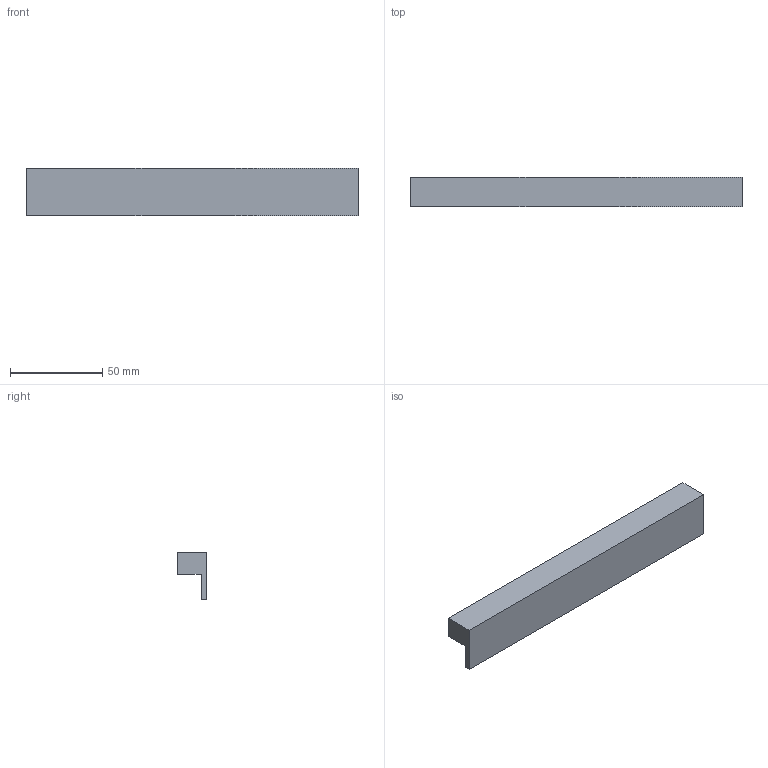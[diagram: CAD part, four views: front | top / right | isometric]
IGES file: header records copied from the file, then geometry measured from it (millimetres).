
Start section: Data from Parasolid IGES Translator 20.0.26, Copyright(c) 2006 Siemens P LM Software. All Rights Reserved.
Global section: file name: 9209004.igs; native system: By Siemens PLM Incorporated; preprocessor: XPlus GENERIC/IGES 20.0.26; author: Noname; organization: Noname; date: 20230220.165812; units: millimetre
Bounding box: 180 x 16 x 26 mm (x, y, z)
Surface area: 15839.3 mm2 (no closed solid volume)
Topology: 0 solids, 0 shells, 12 faces, 48 edges, 46 vertices
Faces by surface type: extrusion 10, revolution 2
